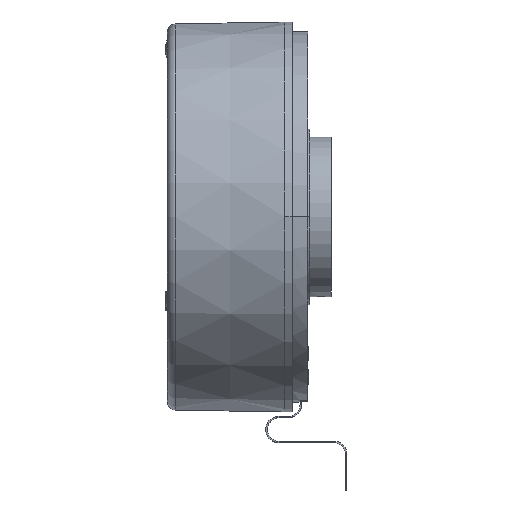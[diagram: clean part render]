
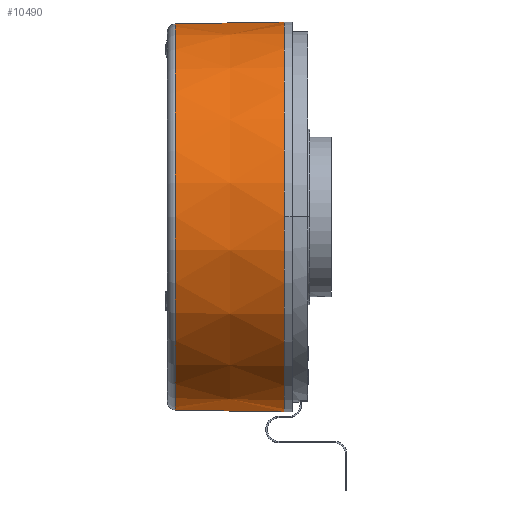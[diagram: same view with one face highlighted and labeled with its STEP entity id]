
A CAD part, top view. The second image highlights one B-rep face of the part: STEP entity #10490.
In plain terms, the highlighted conical face has half-angle 1 degrees and reference radius 50 mm.
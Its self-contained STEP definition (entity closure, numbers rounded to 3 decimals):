
#10413 = VERTEX_POINT ( 'NONE', #25358 ) ;
#10478 = VERTEX_POINT ( 'NONE', #25566 ) ;
#10481 = EDGE_CURVE ( 'NONE', #10413, #10478, #25609, .T. ) ;
#10490 = ADVANCED_FACE ( 'NONE', ( #25661 ), #25640, .T. ) ;
#10491 = VERTEX_POINT ( 'NONE', #25639 ) ;
#10494 = ORIENTED_EDGE ( 'NONE', *, *, #10567, .F. ) ;
#10495 = ORIENTED_EDGE ( 'NONE', *, *, #10481, .T. ) ;
#10496 = ORIENTED_EDGE ( 'NONE', *, *, #10548, .T. ) ;
#10502 = EDGE_LOOP ( 'NONE', ( #10494, #10495, #10496, #10550 ) ) ;
#10548 = EDGE_CURVE ( 'NONE', #10478, #10491, #25854, .T. ) ;
#10550 = ORIENTED_EDGE ( 'NONE', *, *, #10551, .T. ) ;
#10551 = EDGE_CURVE ( 'NONE', #10491, #10568, #25857, .T. ) ;
#10567 = EDGE_CURVE ( 'NONE', #10413, #10568, #25916, .T. ) ;
#10568 = VERTEX_POINT ( 'NONE', #25912 ) ;
#25358 = CARTESIAN_POINT ( 'NONE',  ( 15.192, 46.344, 0. ) ) ;
#25565 = CARTESIAN_POINT ( 'NONE',  ( 15.192, -3.167, 0. ) ) ;
#25566 = CARTESIAN_POINT ( 'NONE',  ( 15.192, -52.677, 0. ) ) ;
#25606 = DIRECTION ( 'NONE',  ( 0., 1., 0. ) ) ;
#25607 = DIRECTION ( 'NONE',  ( 1., 0., 0. ) ) ;
#25608 = AXIS2_PLACEMENT_3D ( 'NONE', #25565, #25607, #25606 ) ;
#25609 = CIRCLE ( 'NONE', #25608, 49.511 ) ;
#25639 = CARTESIAN_POINT ( 'NONE',  ( 43.227, -53.167, 0. ) ) ;
#25640 = CONICAL_SURFACE ( 'NONE', #25699, 50., 0.017 ) ;
#25661 = FACE_OUTER_BOUND ( 'NONE', #10502, .T. ) ;
#25696 = DIRECTION ( 'NONE',  ( 0., -1., 0. ) ) ;
#25697 = DIRECTION ( 'NONE',  ( 1., 0., 0. ) ) ;
#25698 = CARTESIAN_POINT ( 'NONE',  ( 43.227, -3.167, 0. ) ) ;
#25699 = AXIS2_PLACEMENT_3D ( 'NONE', #25698, #25697, #25696 ) ;
#25852 = VECTOR ( 'NONE', #25903, 1000. ) ;
#25853 = CARTESIAN_POINT ( 'NONE',  ( 43.227, -53.167, 0. ) ) ;
#25854 = LINE ( 'NONE', #25853, #25852 ) ;
#25857 = CIRCLE ( 'NONE', #25900, 50. ) ;
#25896 = DIRECTION ( 'NONE',  ( 0., 1., 0. ) ) ;
#25900 = AXIS2_PLACEMENT_3D ( 'NONE', #25902, #25901, #25896 ) ;
#25901 = DIRECTION ( 'NONE',  ( -1., 0., 0. ) ) ;
#25902 = CARTESIAN_POINT ( 'NONE',  ( 43.227, -3.167, 0. ) ) ;
#25903 = DIRECTION ( 'NONE',  ( 1., -0.017, 0. ) ) ;
#25912 = CARTESIAN_POINT ( 'NONE',  ( 43.227, 46.833, 0. ) ) ;
#25913 = DIRECTION ( 'NONE',  ( 1., 0.017, 0. ) ) ;
#25914 = VECTOR ( 'NONE', #25913, 1000. ) ;
#25915 = CARTESIAN_POINT ( 'NONE',  ( 43.227, 46.833, 0. ) ) ;
#25916 = LINE ( 'NONE', #25915, #25914 ) ;
